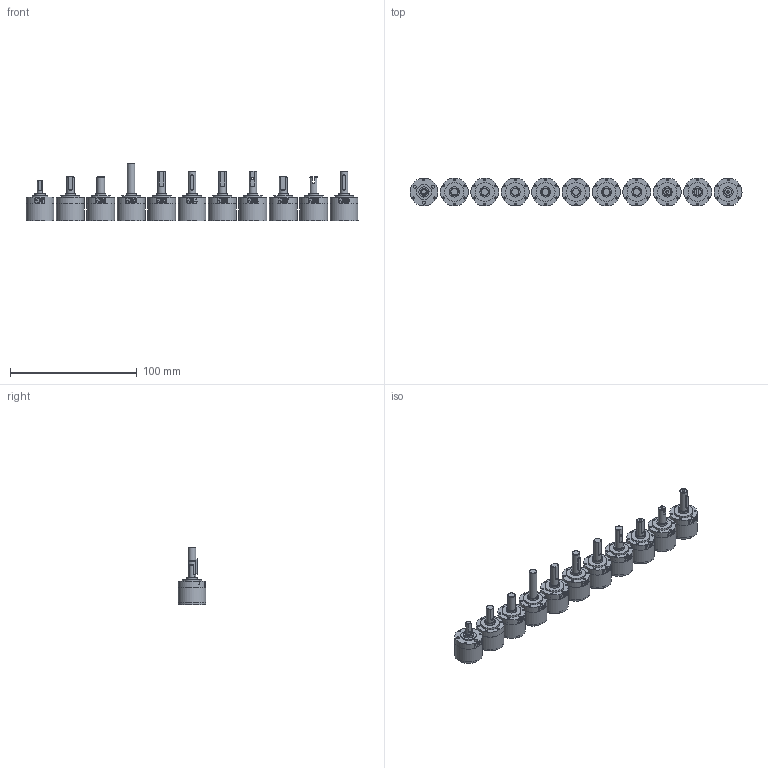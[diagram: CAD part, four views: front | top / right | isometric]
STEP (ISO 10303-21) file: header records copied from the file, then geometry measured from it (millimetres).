
FILE_DESCRIPTION(/* description */ (''),/* implementation_level */ '2;1');
FILE_NAME(/* name */ '22gpt-1stage_standard+KSx+KRx.stp',/* time_stamp */ '2023-02-02T07:31:38+01:00',/* author */ ('DR. FRITZ FAULHABER GmbH & Co. KG'),/* organization */ ('DR. FRITZ FAULHABER GmbH & Co. KG'),/* preprocessor_version */ 'ST-DEVELOPER v16.7',/* originating_system */ 'SIEMENS PLM Software NX 1919',/* authorisation */ '');
FILE_SCHEMA (('AUTOMOTIVE_DESIGN { 1 0 10303 214 3 1 1 1 }'));
Length unit declared in the file: millimetre
Products named in the file (1): H99999998-A-Alle Getriebe
Bounding box: 262 x 22 x 45.1 mm (x, y, z)
Volume: 74325.9 mm3; surface area: 30534.4 mm2
Topology: 11 solids, 11 shells, 683 faces, 1384 edges, 927 vertices
Faces by surface type: plane 320, cylinder 220, bspline 127, cone 16
Full cylindrical faces by diameter (mm): 1.6 x63, 2 x1, 2.05 x2, 2.5 x3, 4 x1, 6 x10, 8 x11, 10.068 x11, 12 x12, 15 x10, 20.8 x11, 21 x11, 21.999 x11, 22 x22
Entity records: 32693 total; most frequent: CARTESIAN_POINT 18763, ORIENTED_EDGE 2332, DIRECTION 2183, EDGE_CURVE 1166, EDGE_LOOP 1079, AXIS2_PLACEMENT_3D 1006, VERTEX_POINT 901, FACE_BOUND 696
